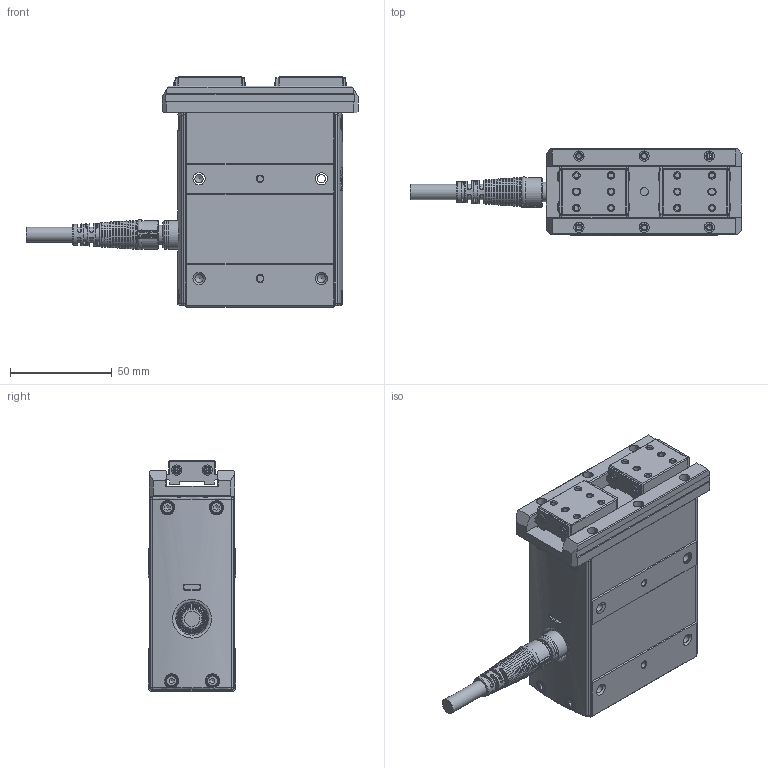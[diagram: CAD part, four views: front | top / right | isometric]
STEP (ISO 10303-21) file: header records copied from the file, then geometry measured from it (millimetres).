
FILE_DESCRIPTION(/* description */ (''),/* implementation_level */ '2;1');
FILE_NAME(/* name */ 'D:\2025.02.25 帶電匯整給泊舟\CHZ2-S22-180.stp',/* time_stamp */ '2025-02-26T11:01:44+08:00',/* author */ ('T10033'),/* organization */ (''),/* preprocessor_version */ 'ST-DEVELOPER v18.1',/* originating_system */ 'Autodesk Inventor 2020',/* authorisation */ '');
FILE_SCHEMA (('CONFIG_CONTROL_DESIGN'));
Products named in the file (7): CHZ2-N22_(線直出+帶夾具); 12008-000057-02_蓋板修改; 慶陞金屬頭; M12-14PIN 線端180度接頭-05中繼線; 6WT3E5DF_Shrinkwrap_1; 63T6E3_Shrinkwrap_1; 43Y6E3TR_Shrinkwrap_1
Assembly tree (6 placements, depth 2):
  CHZ2-N22_(線直出+帶夾具)
    12008-000057-02_蓋板修改
    慶陞金屬頭
    M12-14PIN 線端180度接頭-05中繼線
    6WT3E5DF_Shrinkwrap_1
    63T6E3_Shrinkwrap_1
    43Y6E3TR_Shrinkwrap_1
Bounding box: 162.9 x 43 x 113 mm (x, y, z)
Volume: 367604.2 mm3; surface area: 82069.6 mm2
Topology: 47 solids, 47 shells, 2387 faces, 6451 edges, 4279 vertices
Faces by surface type: plane 1205, cylinder 525, cone 399, bspline 164, torus 74, sphere 20
Full cylindrical faces by diameter (mm): 0.6 x14, 0.65 x14, 0.8 x2, 1 x14, 2 x2, 2.013 x8, 2.224 x8, 2.459 x22, 2.5 x8, 2.7 x8, 2.8 x3, 3 x18, 3.4 x6, 4 x3, 4.134 x12, 5 x14, 5.5 x12, 6.647 x2, 7.5 x1, 8 x3, 8.9 x1, 9.5 x2, 9.6 x1, 10.5 x2, 11 x1, 11.2 x5, 12 x1, 13 x1, 13.8 x1, 14 x2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
Entity records: 94360 total; most frequent: CARTESIAN_POINT 30523, DIRECTION 13055, ORIENTED_EDGE 12844, EDGE_CURVE 6422, AXIS2_PLACEMENT_3D 4977, VERTEX_POINT 4279, LINE 3101, VECTOR 3101
